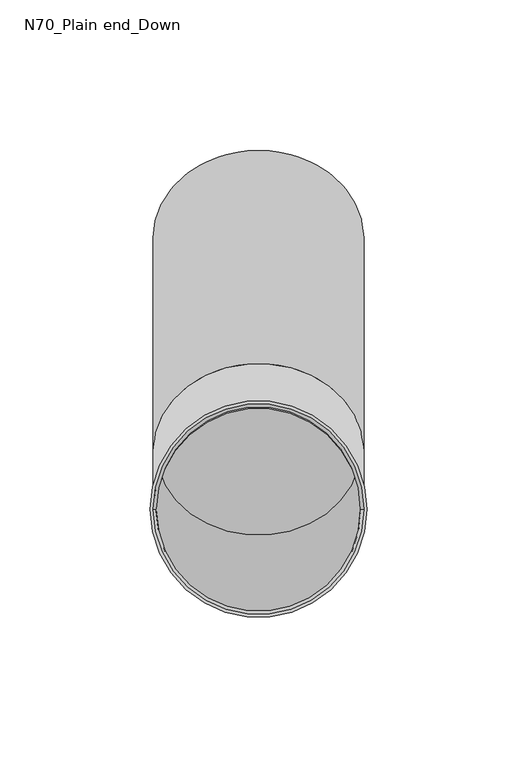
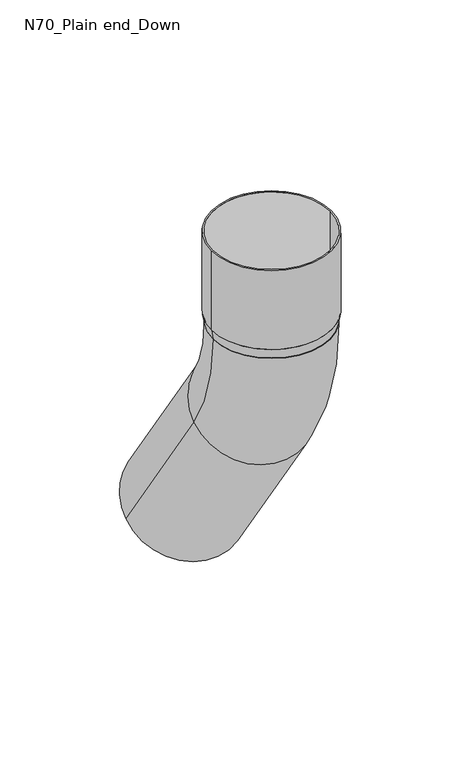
"""IFC4 building model written with IfcOpenShell, lengths in millimetres: proxy geometry, GROVIK_Downpipe_Adjustable offset : N70_Plain end_Down."""

from ifc_helpers import new_model, si_unit, point, frame, origin, origin_with_axes, origin_2d, place, context, project, spatial, polyline, circle_curve, ellipse_curve, trimmed, segment, composite_curve, outline, extrude, source, transform, mapped, element, save
from ifc_brep_helpers import plane_surface, cylinder_surface, revolved_surface, advanced_brep


def n70_plain_end_down_109001f3(model_context):
    return source(origin(), model_context, "Body", "SolidModel", [
        extrude(outline(composite_curve([segment(trimmed(circle_curve(origin_2d(), 36.0), [point((-36.0, 0.0))], [point((36.0, 0.0))], False, "CARTESIAN"), True, "CONTINUOUS"), segment(trimmed(circle_curve(origin_2d(), 36.0), [point((36.0, 0.0))], [point((-36.0, 0.0))], False, "CARTESIAN"), True, "CONTINUOUS")], self_intersect=False), holes=[composite_curve([segment(trimmed(circle_curve(origin_2d(), 35.0), [point((-35.0, 0.0))], [point((35.0, 0.0))], True, "CARTESIAN"), True, "CONTINUOUS"), segment(trimmed(circle_curve(origin_2d(), 35.0), [point((35.0, 0.0))], [point((-35.0, 0.0))], True, "CARTESIAN"), True, "CONTINUOUS")], self_intersect=False)]), frame((0.0, 0.0, 6.0), z_axis=(0.0, 0.0, 1.0), x_axis=(1.0, 0.0, 0.0)), (0.0, 0.0, 1.0), 50.0),
        advanced_brep(
        [(-35.0, 0.0, 0.0), (35.0, 0.0, 0.0), (34.0, 0.0, 0.0), (-34.0, 0.0, 0.0), (-36.0, 0.0, 6.0), (36.0, 0.0, 6.0), (-35.0, 0.0, 6.0), (35.0, 0.0, 6.0)],
        [
            (0, 1, circle_curve(frame((0.0, 0.0, 0.0), z_axis=(0.0, 0.0, -1.0), x_axis=(-1.0, 0.0, 0.0)), 35.0)),
            (1, 0, circle_curve(frame((0.0, 0.0, 0.0), z_axis=(0.0, 0.0, -1.0), x_axis=(1.0, 0.0, 0.0)), 35.0)),
            (2, 3, circle_curve(frame((0.0, 0.0, 0.0), z_axis=(0.0, 0.0, 1.0), x_axis=(-1.0, 0.0, 0.0)), 34.0)),
            (3, 2, circle_curve(origin_with_axes(), 34.0)),
            (4, 5, circle_curve(frame((0.0, 0.0, 6.0), z_axis=(0.0, 0.0, 1.0), x_axis=(1.0, 0.0, 0.0)), 36.0)),
            (5, 4, circle_curve(frame((0.0, 0.0, 6.0), z_axis=(0.0, 0.0, 1.0), x_axis=(-1.0, 0.0, 0.0)), 36.0)),
            (6, 7, circle_curve(frame((0.0, 0.0, 6.0), z_axis=(0.0, 0.0, -1.0), x_axis=(-1.0, 0.0, 0.0)), 35.0)),
            (7, 6, circle_curve(frame((0.0, 0.0, 6.0), z_axis=(0.0, 0.0, -1.0), x_axis=(1.0, 0.0, 0.0)), 35.0)),
            (0, 4),
            (5, 1),
            (6, 3),
            (2, 7),
        ],
        [
            plane_surface(frame((0.0, 0.0, 0.0), z_axis=(0.0, 0.0, -1.0), x_axis=(0.0, 1.0, 0.0))),
            plane_surface(frame((0.0, 0.0, 6.0), z_axis=(0.0, 0.0, 1.0), x_axis=(0.0, 1.0, 0.0))),
            revolved_surface(polyline([(-35.0, 0.0, 0.0), (-36.0, 0.0, 6.0)]), (0.0, 0.0, -210.0), (0.0, 0.0, 1.0)),
            revolved_surface(polyline([(35.0, 0.0, 0.0), (36.0, 0.0, 6.0)]), (0.0, 0.0, -210.0), (0.0, 0.0, 1.0)),
            revolved_surface(polyline([(-35.0, 0.0, 6.0), (-34.0, 0.0, 0.0)]), (0.0, 0.0, -204.0), (0.0, 0.0, 1.0)),
        ],
        [
            (0, [[1, 2], [3, 4]]),
            (1, [[5, 6], [7, 8]]),
            (2, [[-1, 9, -6, 10]]),
            (3, [[-2, -10, -5, -9]]),
            (4, [[11, -3, 12, -7]]),
            (4, [[-11, -8, -12, -4]]),
        ],
    ),
        advanced_brep(
        [(-35.0, -0.4836327, 0.0), (35.0, -0.4836327, 0.0), (-34.0, -0.4836327, 0.0), (34.0, -0.4836327, 0.0), (34.0, 19.4359595, -64.6893813), (-34.0, 19.4359595, -64.6893813), (35.0, 19.4359595, -64.6893813), (-35.0, 19.4359595, -64.6893813), (-35.0, 90.3130207, -168.8644368), (35.0, 90.3130207, -168.8644368), (-34.0, 90.3130207, -168.8644368), (34.0, 90.3130207, -168.8644368)],
        [
            (0, 1, circle_curve(frame((0.0, -0.4836327, 0.0), z_axis=(0.0, 0.0, 1.0), x_axis=(1.0, 0.0, 0.0)), 35.0)),
            (1, 0, circle_curve(frame((0.0, -0.4836327, 0.0), z_axis=(0.0, 0.0, 1.0), x_axis=(1.0, 0.0, 0.0)), 35.0)),
            (2, 3, circle_curve(frame((0.0, -0.4836327, 0.0), z_axis=(0.0, 0.0, -1.0), x_axis=(1.0, 0.0, 0.0)), 34.0)),
            (3, 2, circle_curve(frame((0.0, -0.4836327, 0.0), z_axis=(0.0, 0.0, -1.0), x_axis=(1.0, 0.0, 0.0)), 34.0)),
            (4, 3, circle_curve(frame((34.0, 114.5163673, 0.0), z_axis=(-1.0, 0.0, 0.0), x_axis=(0.0, -1.0, 0.0)), 115.0)),
            (2, 5, circle_curve(frame((-34.0, 114.5163673, 0.0), z_axis=(1.0, 0.0, 0.0), x_axis=(0.0, -1.0, 0.0)), 115.0)),
            (5, 4, circle_curve(frame((0.0, 19.4359595, -64.6893813), z_axis=(0.0, 0.5625163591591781, -0.826786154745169), x_axis=(1.0, 0.0, 0.0)), 34.0)),
            (4, 5, circle_curve(frame((0.0, 19.4359595, -64.6893813), z_axis=(0.0, 0.5625163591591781, -0.826786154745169), x_axis=(1.0, 0.0, 0.0)), 34.0)),
            (6, 1, circle_curve(frame((35.0, 114.5163673, 0.0), z_axis=(-1.0, 0.0, 0.0), x_axis=(0.0, -1.0, 0.0)), 115.0)),
            (0, 7, circle_curve(frame((-35.0, 114.5163673, 0.0), z_axis=(1.0, 0.0, 0.0), x_axis=(0.0, -1.0, 0.0)), 115.0)),
            (7, 6, circle_curve(frame((0.0, 19.4359595, -64.6893813), z_axis=(0.0, -0.5625163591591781, 0.826786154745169), x_axis=(1.0, 0.0, 0.0)), 35.0)),
            (6, 7, circle_curve(frame((0.0, 19.4359595, -64.6893813), z_axis=(0.0, -0.5625163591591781, 0.826786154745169), x_axis=(1.0, 0.0, 0.0)), 35.0)),
            (8, 9, circle_curve(frame((0.0, 90.3130207, -168.8644368), z_axis=(0.0, 0.5625163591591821, -0.8267861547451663), x_axis=(1.0, 0.0, 0.0)), 35.0)),
            (9, 8, circle_curve(frame((0.0, 90.3130207, -168.8644368), z_axis=(0.0, 0.5625163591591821, -0.8267861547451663), x_axis=(1.0, 0.0, 0.0)), 35.0)),
            (10, 11, circle_curve(frame((0.0, 90.3130207, -168.8644368), z_axis=(0.0, -0.5625163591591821, 0.8267861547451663), x_axis=(1.0, 0.0, 0.0)), 34.0)),
            (11, 10, circle_curve(frame((0.0, 90.3130207, -168.8644368), z_axis=(0.0, -0.5625163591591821, 0.8267861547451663), x_axis=(1.0, 0.0, 0.0)), 34.0)),
            (5, 10),
            (11, 4),
            (7, 8),
            (9, 6),
        ],
        [
            plane_surface(frame((0.0, -0.4836327, 0.0), z_axis=(0.0, 0.0, 1.0), x_axis=(1.0, 0.0, 0.0))),
            revolved_surface(trimmed(ellipse_curve(frame((0.0, -0.4836327, 0.0), z_axis=(0.0, 0.0, -1.0), x_axis=(1.0, 0.0, 0.0)), 34.0, 34.0), [point((-34.0, -0.4836327, 0.0))], [point((34.0, -0.4836327, 0.0))], True, "CARTESIAN"), (0.0, 114.5163673, 0.0), (1.0, 0.0, 0.0)),
            revolved_surface(trimmed(ellipse_curve(frame((0.0, -0.4836327, 0.0), z_axis=(0.0, 0.0, -1.0), x_axis=(1.0, 0.0, 0.0)), 34.0, 34.0), [point((34.0, -0.4836327, 0.0))], [point((-34.0, -0.4836327, 0.0))], True, "CARTESIAN"), (0.0, 114.5163673, 0.0), (1.0, 0.0, 0.0)),
            revolved_surface(trimmed(ellipse_curve(frame((0.0, -0.4836327, 0.0), z_axis=(0.0, 0.0, 1.0), x_axis=(1.0, 0.0, 0.0)), 35.0, 35.0), [point((-35.0, -0.4836327, 0.0))], [point((35.0, -0.4836327, 0.0))], True, "CARTESIAN"), (0.0, 114.5163673, 0.0), (1.0, 0.0, 0.0)),
            revolved_surface(trimmed(ellipse_curve(frame((0.0, -0.4836327, 0.0), z_axis=(0.0, 0.0, 1.0), x_axis=(1.0, 0.0, 0.0)), 35.0, 35.0), [point((35.0, -0.4836327, 0.0))], [point((-35.0, -0.4836327, 0.0))], True, "CARTESIAN"), (0.0, 114.5163673, 0.0), (1.0, 0.0, 0.0)),
            plane_surface(frame((0.0, 90.3130207, -168.8644368), z_axis=(0.0, 0.5625163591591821, -0.8267861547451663), x_axis=(1.0, 0.0, 0.0))),
            revolved_surface(polyline([(34.0, 90.31302073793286, -168.86443677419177), (34.0, 19.435959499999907, -64.68938129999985)]), (0.0, 19.4359595, -64.6893813), (0.0, 0.5625163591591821, -0.8267861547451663)),
            cylinder_surface(frame((0.0, 19.4359595, -64.6893813), z_axis=(0.0, -0.5625163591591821, 0.8267861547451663), x_axis=(1.0, 0.0, 0.0)), 35.0),
        ],
        [
            (0, [[1, 2], [3, 4]]),
            (1, [[5, -3, 6, 7]]),
            (2, [[-6, -4, -5, 8]]),
            (3, [[9, -1, 10, 11]]),
            (4, [[-10, -2, -9, 12]]),
            (5, [[13, 14], [15, 16]]),
            (6, [[-7, 17, -16, 18]]),
            (6, [[-8, -18, -15, -17]]),
            (7, [[-11, 19, -14, 20]]),
            (7, [[-12, -20, -13, -19]]),
        ],
    ),
    ])


if __name__ == "__main__":
    model = new_model("IFC4")
    model_context = context("Model", 3, world=origin())
    ifc_project = project(units=[si_unit("LENGTHUNIT", "METRE", prefix="MILLI")], contexts=[model_context])
    site = spatial("IfcSite", under=ifc_project)
    building = spatial("IfcBuilding", under=site)
    placement = place(None, origin())
    n70_plain_end_down_shape = n70_plain_end_down_109001f3(model_context)
    element("IfcBuildingElementProxy", 1, Name="GROVIK_Downpipe_Adjustable offset : N70_Plain end_Down", ObjectType="GROVIK_Downpipe_Adjustable offset : N70_Plain end_Down", at=placement, inside=building, context=model_context, shape_type="MappedRepresentation", body=[
        mapped(n70_plain_end_down_shape, transform((0.0, 0.0, 0.0), x_axis=(1.0, 0.0, 0.0), y_axis=(0.0, 1.0, 0.0), z_axis=(0.0, 0.0, 1.0))),
    ])
    save(model, "model.ifc")
